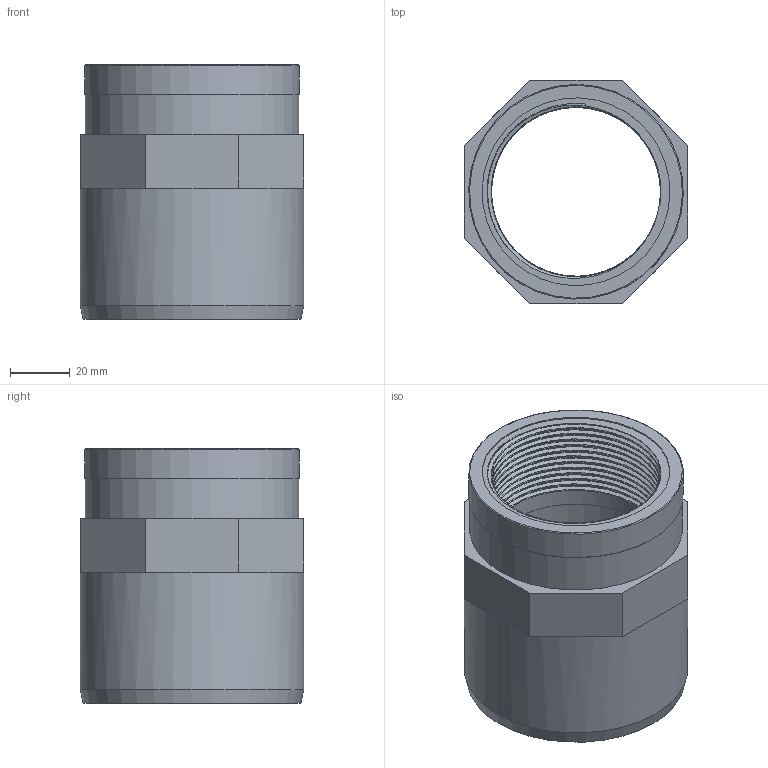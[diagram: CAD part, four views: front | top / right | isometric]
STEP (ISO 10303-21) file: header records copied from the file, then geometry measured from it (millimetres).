
FILE_DESCRIPTION(/* description */ (''),/* implementation_level */ '2;1');
FILE_NAME(/* name */ 'C:\Users\POLYPIPE\Desktop\DATASET INVENTOR\LIBRERIA EFFAST\RACCORDI 3DxWEB\RGR\3D_RGRAFR\3D_RGRAFR075G.stp',/* time_stamp */ '2018-01-19T17:31:59+01:00',/* author */ ('POLYPIPE'),/* organization */ (''),/* preprocessor_version */ 'ST-DEVELOPER v16.1',/* originating_system */ 'Autodesk Inventor 2016',/* authorisation */ '');
FILE_SCHEMA (('CONFIG_CONTROL_DESIGN'));
Length unit declared in the file: centimetre
Products named in the file (1): 3D_RGRAFR075G
Bounding box: 75 x 75 x 85.4 mm (x, y, z)
Volume: 122713.2 mm3; surface area: 43996.3 mm2
Topology: 1 solids, 1 shells, 38 faces, 82 edges, 51 vertices
Faces by surface type: plane 24, cylinder 7, bspline 5, cone 1, torus 1
Full cylindrical faces by diameter (mm): 56.656 x1, 61.1 x1, 63 x1, 63.5 x1, 71.5 x1, 72 x1, 75 x1
Entity records: 5496 total; most frequent: CARTESIAN_POINT 4652, DIRECTION 153, ORIENTED_EDGE 142, EDGE_CURVE 71, AXIS2_PLACEMENT_3D 59, EDGE_LOOP 54, VERTEX_POINT 49, STYLED_ITEM 39
